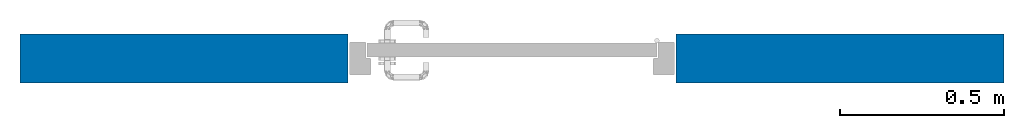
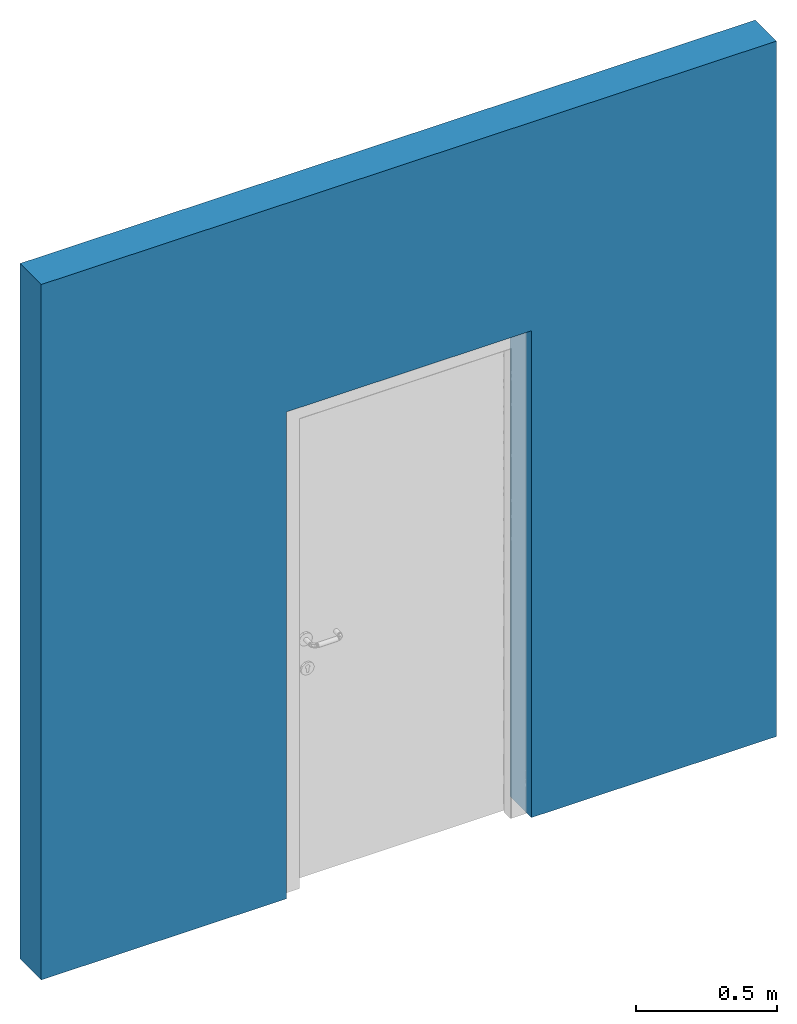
# One storey, incomplete: 1 wall, 1 opening.
"""IFC2X3 building model written with IfcOpenShell, lengths in millimetres."""

from ifc_helpers import new_model, entity, si_unit, converted_unit, derived_unit, direction, frame, frame_2d, origin, place, context, subcontext, project, spatial, rectangle, extrude, material, layer, layer_set, layer_usage, type_object, element, save


model = new_model("IFC2X3")

# Units and contexts
model_context = context("Model", 3, precision=0.01, world=origin(), true_north=direction((6.12303176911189e-17, 1.0)))
body_context = subcontext(model_context, "Body", "Model", "MODEL_VIEW")
ifc_project = project(units=[si_unit("LENGTHUNIT", "METRE", prefix="MILLI"), si_unit("AREAUNIT", "SQUARE_METRE"), si_unit("VOLUMEUNIT", "CUBIC_METRE"), converted_unit("PLANEANGLEUNIT", "DEGREE", entity("IfcRatioMeasure", 0.0174532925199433), si_unit("PLANEANGLEUNIT", "RADIAN"), dimensions=[0, 0, 0, 0, 0, 0, 0]), si_unit("MASSUNIT", "GRAM", prefix="KILO"), si_unit("TIMEUNIT", "SECOND"), si_unit("FREQUENCYUNIT", "HERTZ"), si_unit("THERMODYNAMICTEMPERATUREUNIT", "DEGREE_CELSIUS"), derived_unit("THERMALTRANSMITTANCEUNIT", [(si_unit("MASSUNIT", "GRAM", prefix="KILO"), 1), (si_unit("THERMODYNAMICTEMPERATUREUNIT", "KELVIN"), -1), (si_unit("TIMEUNIT", "SECOND"), -3)]), derived_unit("VOLUMETRICFLOWRATEUNIT", [(si_unit("LENGTHUNIT", "METRE"), 3), (si_unit("TIMEUNIT", "SECOND"), -1)]), si_unit("ELECTRICCURRENTUNIT", "AMPERE"), si_unit("ELECTRICVOLTAGEUNIT", "VOLT"), si_unit("POWERUNIT", "WATT"), si_unit("FORCEUNIT", "NEWTON", prefix="KILO"), si_unit("ILLUMINANCEUNIT", "LUX"), si_unit("LUMINOUSFLUXUNIT", "LUMEN"), si_unit("LUMINOUSINTENSITYUNIT", "CANDELA"), si_unit("PRESSUREUNIT", "PASCAL")], contexts=[model_context])

# Site, building, storey
site_placement = place(None, origin())
site = spatial("IfcSite", under=ifc_project, at=site_placement, Name="Default", CompositionType="ELEMENT")
building_placement = place(site_placement, origin())
building = spatial("IfcBuilding", under=site, at=building_placement, CompositionType="ELEMENT")
storey_placement = place(building_placement, origin())
storey = spatial("IfcBuildingStorey", under=building, at=storey_placement, Name="Level 1", CompositionType="ELEMENT", Elevation=0.0)

# Wall, opening
ifc_material = material(Name="nbl_Concept")
ifc_layer = layer(ifc_material, 150.0)
ifc_layer_set = layer_set([ifc_layer], Name="Basic Wall:NBS_Int_Concept")
ifc_layer_usage = layer_usage(ifc_layer_set, "AXIS2", "POSITIVE", -75.0)
wall_type = type_object("IfcWallType", Name="Basic Wall:NBS_Int_Concept", PredefinedType="STANDARD", material=ifc_layer_set)
wall_placement = place(storey_placement, frame((-1500.0, 0.0, 0.0)))
wall = element("IfcWallStandardCase", 1, at=wall_placement, inside=storey, type_object=wall_type, material=ifc_layer_usage, Name="Basic Wall:NBS_Int_Concept:2301", ObjectType="Basic Wall:NBS_Int_Concept:2340", context=body_context, shape_type="SweptSolid", body=[
    extrude(rectangle(XDim=3000.0, YDim=150.0, at=frame_2d((1500.0, 0.0), x_axis=(-1.0, 0.0))), origin(), (0.0, 0.0, 1.0), 3000.0),
])
opening_placement = place(wall_placement, frame((1000.0, -75.0, 0.0)))
element("IfcOpeningElement", 2, at=opening_placement, cuts=wall, Name="NBS_AssaAbloyLtd_DrsetSym_AASDMetalThermoInsulatingUValueDoor_Single:1000x2100mm:1", ObjectType="Opening", context=body_context, shape_type="SweptSolid", body=[
    extrude(rectangle(XDim=2099.99999999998, YDim=1000.0, at=frame_2d((1049.99999999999, 500.0), x_axis=(1.0, 0.0))), frame((0.0, 0.0, 0.0), z_axis=(0.0, 1.0, 0.0), x_axis=(0.0, 0.0, 1.0)), (0.0, 0.0, 1.0), 150.0),
])

save(model, "model.ifc")
